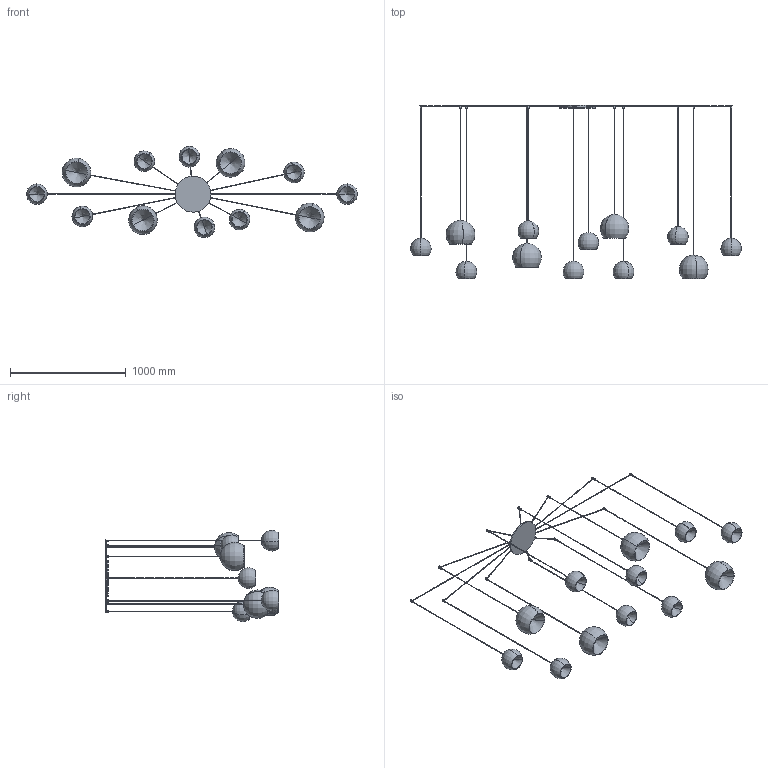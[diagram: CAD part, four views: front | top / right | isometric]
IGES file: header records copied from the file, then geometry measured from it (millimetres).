
Start section: SolidWorks IGES file using analytic representation for surfaces
Global section: file name: Y:\eforma\TECNICO\SOLIDWORKS\E-FORMA\09-LAMPADE\CHERRY MIX\02 parts\CRMA3-00-CHERRY MIX_12 sospensione.IGS; native system: SolidWorks 2022; preprocessor: SolidWorks 2022; author: eforma.tech; date: 250506.093645; units: millimetre
Bounding box: 2857.72 x 1500 x 789.13 mm (x, y, z)
Volume: 4457520.3 mm3; surface area: 3758438 mm2
Topology: 61 solids, 61 shells, 449 faces, 950 edges, 600 vertices
Faces by surface type: revolution 302, plane 147
